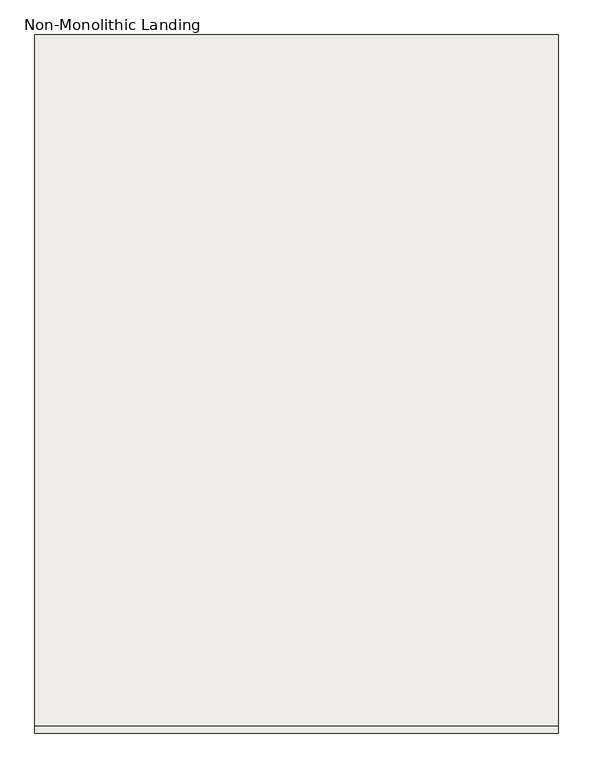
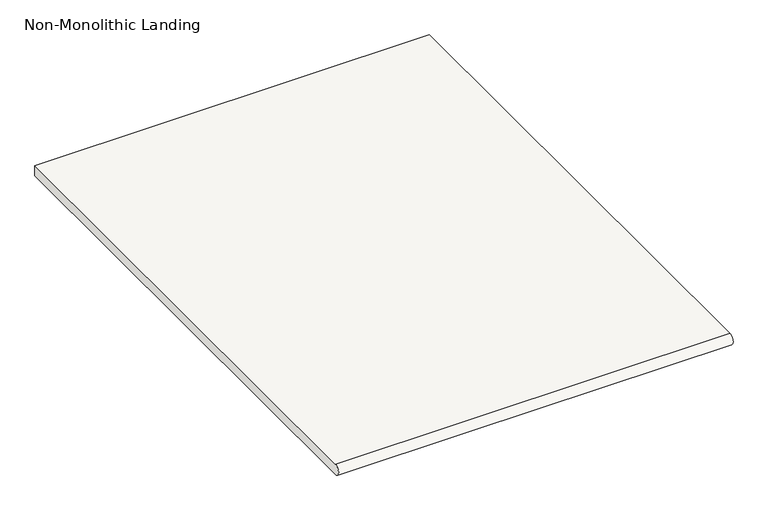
"""IFC4 building model written with IfcOpenShell, lengths in millimetres: slab geometry, Non-Monolithic Landing."""

from ifc_helpers import new_model, si_unit, point, frame, frame_2d, origin, place, context, project, spatial, polyline, circle_curve, trimmed, segment, composite_curve, outline, extrude, source, transform, mapped, element, save


def non_monolithic_landing_b96ad3e3(model_context):
    return source(origin(), model_context, "Body", "SweptSolid", [
        extrude(outline(composite_curve([segment(polyline([(-1677.6289462, 457.2), (-471.1289462, 457.2), (-471.1289462, 431.8), (-1677.6289462, 431.8)]), True, "CONTINUOUS"), segment(trimmed(circle_curve(frame_2d((-1677.6289462, 444.5)), 12.7), [point((-1677.6289462, 431.8))], [point((-1677.6289462, 457.2))], False, "CARTESIAN"), True, "CONTINUOUS")], self_intersect=False)), frame((-3782.5379486, 0.0, 0.0), z_axis=(1.0, 0.0, 0.0), x_axis=(0.0, 1.0, 0.0)), (0.0, 0.0, 1.0), 914.4),
    ])


if __name__ == "__main__":
    model = new_model("IFC4")
    model_context = context("Model", 3, world=origin())
    ifc_project = project(units=[si_unit("LENGTHUNIT", "METRE", prefix="MILLI")], contexts=[model_context])
    site = spatial("IfcSite", under=ifc_project)
    building = spatial("IfcBuilding", under=site)
    placement = place(None, origin())
    non_monolithic_landing_shape = non_monolithic_landing_b96ad3e3(model_context)
    element("IfcSlab", 1, ObjectType="Non-Monolithic Landing", at=placement, inside=building, context=model_context, shape_type="MappedRepresentation", body=[
        mapped(non_monolithic_landing_shape, transform((0.0, 0.0, 0.0), x_axis=(1.0, 0.0, 0.0), y_axis=(0.0, 1.0, 0.0), z_axis=(0.0, 0.0, 1.0))),
    ])
    save(model, "model.ifc")
